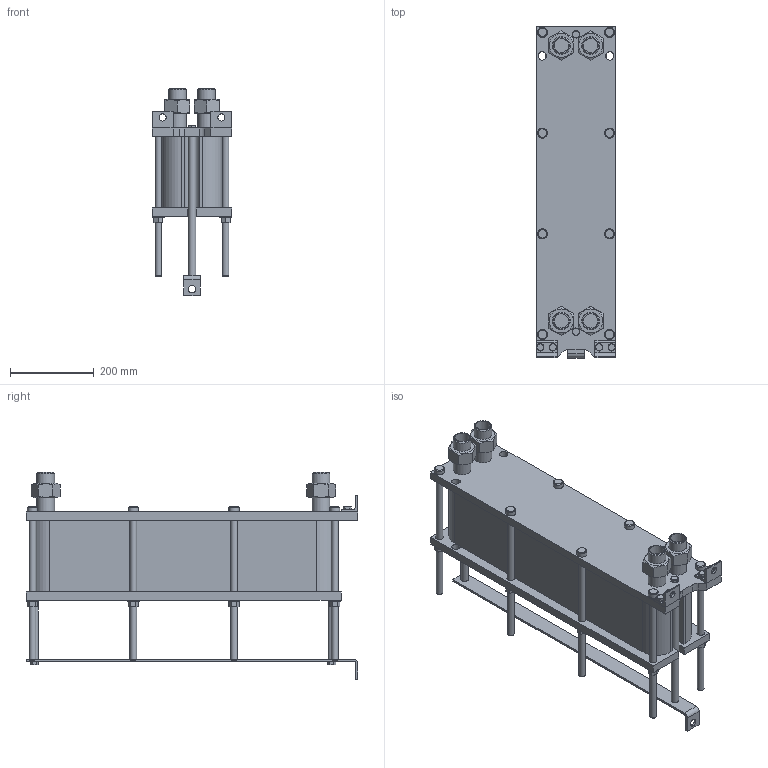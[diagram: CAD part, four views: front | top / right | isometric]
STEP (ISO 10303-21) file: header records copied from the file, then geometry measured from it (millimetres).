
FILE_DESCRIPTION(/* description */ (''),/* implementation_level */ '2;1');
FILE_NAME(/* name */ 'C:\Users\zhuro\Desktop\ENCO\TO\ЭН-008\ЭН-0,5-008-55-1.stp',/* time_stamp */ '2022-06-06T10:49:52+03:00',/* author */ ('zhuro'),/* organization */ (''),/* preprocessor_version */ 'ST-DEVELOPER v18.1',/* originating_system */ 'Autodesk Inventor 2022',/* authorisation */ '');
FILE_SCHEMA (('AUTOMOTIVE_DESIGN { 1 0 10303 214 3 1 1 }'));
Length unit declared in the file: millimetre
Products named in the file (1): ЭН-0,5-008-55-1
Bounding box: 190 x 790 x 493 mm (x, y, z)
Volume: 24161404.2 mm3; surface area: 1640877.4 mm2
Topology: 40 solids, 40 shells, 428 faces, 924 edges, 606 vertices
Faces by surface type: plane 273, cylinder 109, cone 40, torus 6
Full cylindrical faces by diameter (mm): 12 x6, 14 x2, 16 x20, 17 x8, 18 x19, 20 x5, 24 x8, 28 x8, 34.3 x8, 42.3 x8
Entity records: 15843 total; most frequent: CARTESIAN_POINT 5991, DIRECTION 1984, ORIENTED_EDGE 1848, EDGE_CURVE 924, AXIS2_PLACEMENT_3D 715, VERTEX_POINT 606, LINE 554, VECTOR 554
